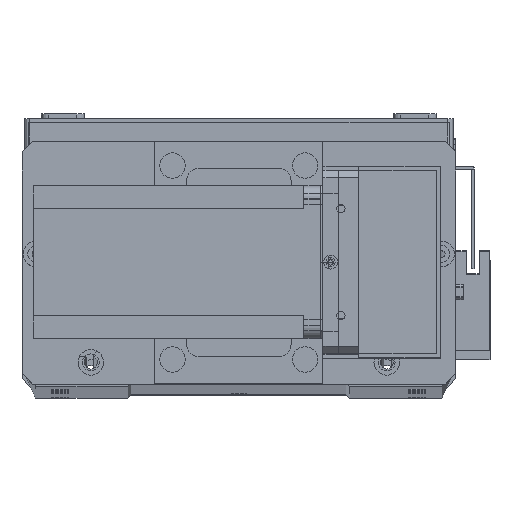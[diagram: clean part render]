
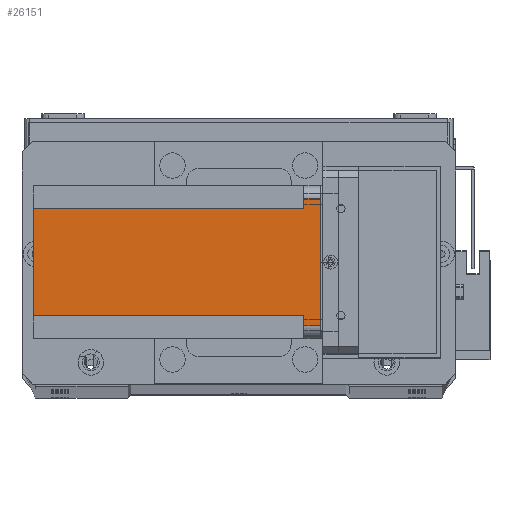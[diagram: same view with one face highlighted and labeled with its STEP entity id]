
A CAD part, top view. The second image highlights one B-rep face of the part: STEP entity #26151.
In plain terms, the highlighted planar face has unit normal (0, 0, 1) as drawn and (-1, 0, 0) by its records, which use the part's own axes.
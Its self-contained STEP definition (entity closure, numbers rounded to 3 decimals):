
#3 = EDGE_CURVE ( 'NONE', #1391, #27050, #22072, .T. ) ;
#169 = LINE ( 'NONE', #30413, #19178 ) ;
#1138 = CARTESIAN_POINT ( 'NONE',  ( 0., 55., -6.5 ) ) ;
#1391 = VERTEX_POINT ( 'NONE', #12579 ) ;
#1458 = CARTESIAN_POINT ( 'NONE',  ( 0., 51., -6.5 ) ) ;
#1955 = DIRECTION ( 'NONE',  ( 0., 0., -1. ) ) ;
#2868 = VERTEX_POINT ( 'NONE', #29450 ) ;
#3169 = VERTEX_POINT ( 'NONE', #27175 ) ;
#3272 = CARTESIAN_POINT ( 'NONE',  ( 0., 0., -112.5 ) ) ;
#3502 = ORIENTED_EDGE ( 'NONE', *, *, #28531, .F. ) ;
#4081 = DIRECTION ( 'NONE',  ( 0., 0., 1. ) ) ;
#4522 = LINE ( 'NONE', #31975, #17384 ) ;
#4785 = ORIENTED_EDGE ( 'NONE', *, *, #27404, .F. ) ;
#5075 = VERTEX_POINT ( 'NONE', #28566 ) ;
#5778 = LINE ( 'NONE', #27552, #13553 ) ;
#7052 = PLANE ( 'NONE',  #8410 ) ;
#8410 = AXIS2_PLACEMENT_3D ( 'NONE', #32281, #9771, #27324 ) ;
#9771 = DIRECTION ( 'NONE',  ( -1., 0., 0. ) ) ;
#10442 = VECTOR ( 'NONE', #28884, 1000. ) ;
#10824 = VECTOR ( 'NONE', #4081, 1000. ) ;
#11053 = ORIENTED_EDGE ( 'NONE', *, *, #27857, .F. ) ;
#11092 = EDGE_LOOP ( 'NONE', ( #11053, #30088, #16454, #20666, #3502, #32521, #14390, #4785 ) ) ;
#12148 = DIRECTION ( 'NONE',  ( 0., 1., 0. ) ) ;
#12579 = CARTESIAN_POINT ( 'NONE',  ( 0., 55., 0. ) ) ;
#13553 = VECTOR ( 'NONE', #1955, 1000. ) ;
#14390 = ORIENTED_EDGE ( 'NONE', *, *, #28335, .T. ) ;
#14515 = CARTESIAN_POINT ( 'NONE',  ( 0., 51., -112.5 ) ) ;
#15459 = DIRECTION ( 'NONE',  ( 0., 0., -1. ) ) ;
#16454 = ORIENTED_EDGE ( 'NONE', *, *, #3, .F. ) ;
#17035 = LINE ( 'NONE', #3272, #10442 ) ;
#17384 = VECTOR ( 'NONE', #29442, 1000. ) ;
#17674 = DIRECTION ( 'NONE',  ( 0., 0., 1. ) ) ;
#18410 = VECTOR ( 'NONE', #15459, 1000. ) ;
#19178 = VECTOR ( 'NONE', #17674, 1000. ) ;
#19315 = LINE ( 'NONE', #22036, #31286 ) ;
#19609 = VECTOR ( 'NONE', #22600, 1000. ) ;
#19686 = CARTESIAN_POINT ( 'NONE',  ( 0., 0., 0. ) ) ;
#20666 = ORIENTED_EDGE ( 'NONE', *, *, #28705, .T. ) ;
#21075 = CARTESIAN_POINT ( 'NONE',  ( 0., 5., 0. ) ) ;
#22036 = CARTESIAN_POINT ( 'NONE',  ( 0., 0., -6.5 ) ) ;
#22072 = LINE ( 'NONE', #19686, #19609 ) ;
#22600 = DIRECTION ( 'NONE',  ( 0., -1., 0. ) ) ;
#23323 = LINE ( 'NONE', #14515, #10824 ) ;
#25116 = CARTESIAN_POINT ( 'NONE',  ( 0., 9., -112.5 ) ) ;
#26031 = LINE ( 'NONE', #27979, #18410 ) ;
#26151 = ADVANCED_FACE ( 'NONE', ( #26511 ), #7052, .T. ) ;
#26511 = FACE_OUTER_BOUND ( 'NONE', #11092, .T. ) ;
#27050 = VERTEX_POINT ( 'NONE', #21075 ) ;
#27175 = CARTESIAN_POINT ( 'NONE',  ( 0., 5., -6.5 ) ) ;
#27324 = DIRECTION ( 'NONE',  ( 0., -1., 0. ) ) ;
#27396 = EDGE_CURVE ( 'NONE', #3169, #27050, #169, .T. ) ;
#27404 = EDGE_CURVE ( 'NONE', #5075, #28743, #26031, .T. ) ;
#27552 = CARTESIAN_POINT ( 'NONE',  ( 0., 55., -112.5 ) ) ;
#27857 = EDGE_CURVE ( 'NONE', #3169, #5075, #19315, .T. ) ;
#27979 = CARTESIAN_POINT ( 'NONE',  ( 0., 9., -112.5 ) ) ;
#28335 = EDGE_CURVE ( 'NONE', #2868, #28743, #17035, .T. ) ;
#28531 = EDGE_CURVE ( 'NONE', #33278, #31803, #4522, .T. ) ;
#28566 = CARTESIAN_POINT ( 'NONE',  ( 0., 9., -6.5 ) ) ;
#28567 = EDGE_CURVE ( 'NONE', #2868, #33278, #23323, .T. ) ;
#28705 = EDGE_CURVE ( 'NONE', #1391, #31803, #5778, .T. ) ;
#28743 = VERTEX_POINT ( 'NONE', #25116 ) ;
#28884 = DIRECTION ( 'NONE',  ( 0., -1., 0. ) ) ;
#29442 = DIRECTION ( 'NONE',  ( 0., 1., 0. ) ) ;
#29450 = CARTESIAN_POINT ( 'NONE',  ( 0., 51., -112.5 ) ) ;
#30088 = ORIENTED_EDGE ( 'NONE', *, *, #27396, .T. ) ;
#30413 = CARTESIAN_POINT ( 'NONE',  ( 0., 5., -112.5 ) ) ;
#31286 = VECTOR ( 'NONE', #12148, 1000. ) ;
#31803 = VERTEX_POINT ( 'NONE', #1138 ) ;
#31975 = CARTESIAN_POINT ( 'NONE',  ( 0., 60., -6.5 ) ) ;
#32281 = CARTESIAN_POINT ( 'NONE',  ( 0., 0., -112.5 ) ) ;
#32521 = ORIENTED_EDGE ( 'NONE', *, *, #28567, .F. ) ;
#33278 = VERTEX_POINT ( 'NONE', #1458 ) ;
